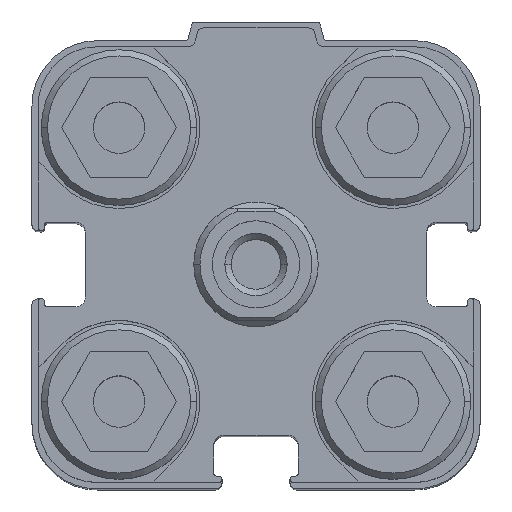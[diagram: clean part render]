
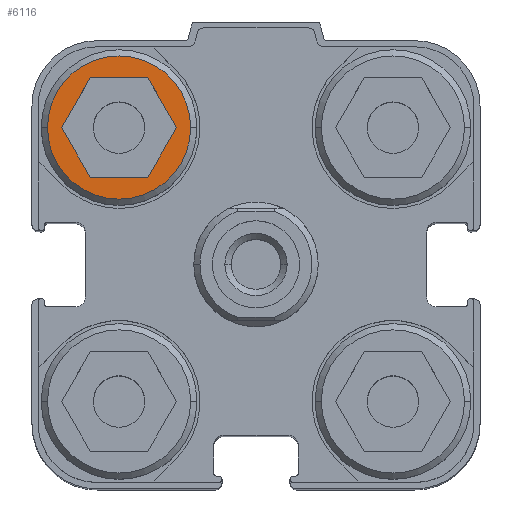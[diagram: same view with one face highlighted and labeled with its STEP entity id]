
A CAD part, top view. The second image highlights one B-rep face of the part: STEP entity #6116.
In plain terms, the highlighted planar face has unit normal (0, 0, 1).
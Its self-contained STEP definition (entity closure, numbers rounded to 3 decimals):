
#252 = VERTEX_POINT ( 'NONE', #1861 ) ;
#258 = VERTEX_POINT ( 'NONE', #1867 ) ;
#357 = AXIS2_PLACEMENT_3D ( 'NONE', #992, #993, #8026 ) ;
#537 = CIRCLE ( 'NONE', #357, 5.75 ) ;
#810 = FACE_BOUND ( 'NONE', #8202, .T. ) ;
#813 = FACE_OUTER_BOUND ( 'NONE', #8201, .T. ) ;
#992 = CARTESIAN_POINT ( 'NONE',  ( -11., 11., 65.3 ) ) ;
#993 = DIRECTION ( 'NONE',  ( 0., 0., 1. ) ) ;
#1510 = EDGE_CURVE ( 'NONE', #258, #252, #537, .T. ) ;
#1861 = CARTESIAN_POINT ( 'NONE',  ( -5.25, 11., 65.3 ) ) ;
#1867 = CARTESIAN_POINT ( 'NONE',  ( -16.75, 11., 65.3 ) ) ;
#2909 = AXIS2_PLACEMENT_3D ( 'NONE', #3517, #3518, #3519 ) ;
#3517 = CARTESIAN_POINT ( 'NONE',  ( -11., 11., 65.3 ) ) ;
#3518 = DIRECTION ( 'NONE',  ( 0., 0., 1. ) ) ;
#3519 = DIRECTION ( 'NONE',  ( -1., 0., 0. ) ) ;
#4222 = CIRCLE ( 'NONE', #2909, 5.75 ) ;
#4347 = LINE ( 'NONE', #8558, #4350 ) ;
#4350 = VECTOR ( 'NONE', #8560, 1000. ) ;
#4353 = LINE ( 'NONE', #8564, #4356 ) ;
#4356 = VECTOR ( 'NONE', #8566, 1000. ) ;
#4357 = LINE ( 'NONE', #8568, #4360 ) ;
#4360 = VECTOR ( 'NONE', #8570, 1000. ) ;
#4361 = LINE ( 'NONE', #8572, #4364 ) ;
#4364 = VECTOR ( 'NONE', #8573, 1000. ) ;
#4365 = LINE ( 'NONE', #8575, #4368 ) ;
#4368 = VECTOR ( 'NONE', #8577, 1000. ) ;
#4369 = LINE ( 'NONE', #8579, #4372 ) ;
#4372 = VECTOR ( 'NONE', #8581, 1000. ) ;
#5385 = CARTESIAN_POINT ( 'NONE',  ( -8.87, 18.949, 65.3 ) ) ;
#5389 = PLANE ( 'NONE',  #5623 ) ;
#5394 = DIRECTION ( 'NONE',  ( 0., 0., -1. ) ) ;
#5395 = DIRECTION ( 'NONE',  ( 0.5, -0.866, 0. ) ) ;
#5623 = AXIS2_PLACEMENT_3D ( 'NONE', #5385, #5394, #5395 ) ;
#6116 = ADVANCED_FACE ( 'NONE', ( #810, #813 ), #5389, .F. ) ;
#6637 = EDGE_CURVE ( 'NONE', #252, #258, #4222, .T. ) ;
#6717 = EDGE_CURVE ( 'NONE', #6955, #6967, #4347, .T. ) ;
#6720 = EDGE_CURVE ( 'NONE', #6967, #6948, #4353, .T. ) ;
#6722 = EDGE_CURVE ( 'NONE', #6948, #6950, #4357, .T. ) ;
#6724 = EDGE_CURVE ( 'NONE', #6950, #6947, #4361, .T. ) ;
#6726 = EDGE_CURVE ( 'NONE', #6947, #6946, #4365, .T. ) ;
#6728 = EDGE_CURVE ( 'NONE', #6946, #6955, #4369, .T. ) ;
#6946 = VERTEX_POINT ( 'NONE', #8801 ) ;
#6947 = VERTEX_POINT ( 'NONE', #8802 ) ;
#6948 = VERTEX_POINT ( 'NONE', #8803 ) ;
#6950 = VERTEX_POINT ( 'NONE', #8805 ) ;
#6955 = VERTEX_POINT ( 'NONE', #8810 ) ;
#6967 = VERTEX_POINT ( 'NONE', #8822 ) ;
#7440 = ORIENTED_EDGE ( 'NONE', *, *, #6726, .F. ) ;
#7441 = ORIENTED_EDGE ( 'NONE', *, *, #6724, .F. ) ;
#7442 = ORIENTED_EDGE ( 'NONE', *, *, #6722, .F. ) ;
#7443 = ORIENTED_EDGE ( 'NONE', *, *, #6720, .F. ) ;
#7444 = ORIENTED_EDGE ( 'NONE', *, *, #6717, .F. ) ;
#7445 = ORIENTED_EDGE ( 'NONE', *, *, #6728, .F. ) ;
#7446 = ORIENTED_EDGE ( 'NONE', *, *, #1510, .T. ) ;
#7447 = ORIENTED_EDGE ( 'NONE', *, *, #6637, .T. ) ;
#8026 = DIRECTION ( 'NONE',  ( -1., 0., 0. ) ) ;
#8201 = EDGE_LOOP ( 'NONE', ( #7446, #7447 ) ) ;
#8202 = EDGE_LOOP ( 'NONE', ( #7440, #7441, #7442, #7443, #7444, #7445 ) ) ;
#8558 = CARTESIAN_POINT ( 'NONE',  ( -15.619, 11., 65.3 ) ) ;
#8560 = DIRECTION ( 'NONE',  ( -0.5, -0.866, 0. ) ) ;
#8564 = CARTESIAN_POINT ( 'NONE',  ( -14.464, 9., 65.3 ) ) ;
#8566 = DIRECTION ( 'NONE',  ( 0.5, -0.866, 0. ) ) ;
#8568 = CARTESIAN_POINT ( 'NONE',  ( -8.691, 7., 65.3 ) ) ;
#8570 = DIRECTION ( 'NONE',  ( 1., 0., 0. ) ) ;
#8572 = CARTESIAN_POINT ( 'NONE',  ( -6.381, 11., 65.3 ) ) ;
#8573 = DIRECTION ( 'NONE',  ( 0.5, 0.866, 0. ) ) ;
#8575 = CARTESIAN_POINT ( 'NONE',  ( -7.536, 13., 65.3 ) ) ;
#8577 = DIRECTION ( 'NONE',  ( -0.5, 0.866, 0. ) ) ;
#8579 = CARTESIAN_POINT ( 'NONE',  ( -13.309, 15., 65.3 ) ) ;
#8581 = DIRECTION ( 'NONE',  ( -1., 0., 0. ) ) ;
#8801 = CARTESIAN_POINT ( 'NONE',  ( -8.691, 15., 65.3 ) ) ;
#8802 = CARTESIAN_POINT ( 'NONE',  ( -6.381, 11., 65.3 ) ) ;
#8803 = CARTESIAN_POINT ( 'NONE',  ( -13.309, 7., 65.3 ) ) ;
#8805 = CARTESIAN_POINT ( 'NONE',  ( -8.691, 7., 65.3 ) ) ;
#8810 = CARTESIAN_POINT ( 'NONE',  ( -13.309, 15., 65.3 ) ) ;
#8822 = CARTESIAN_POINT ( 'NONE',  ( -15.619, 11., 65.3 ) ) ;
